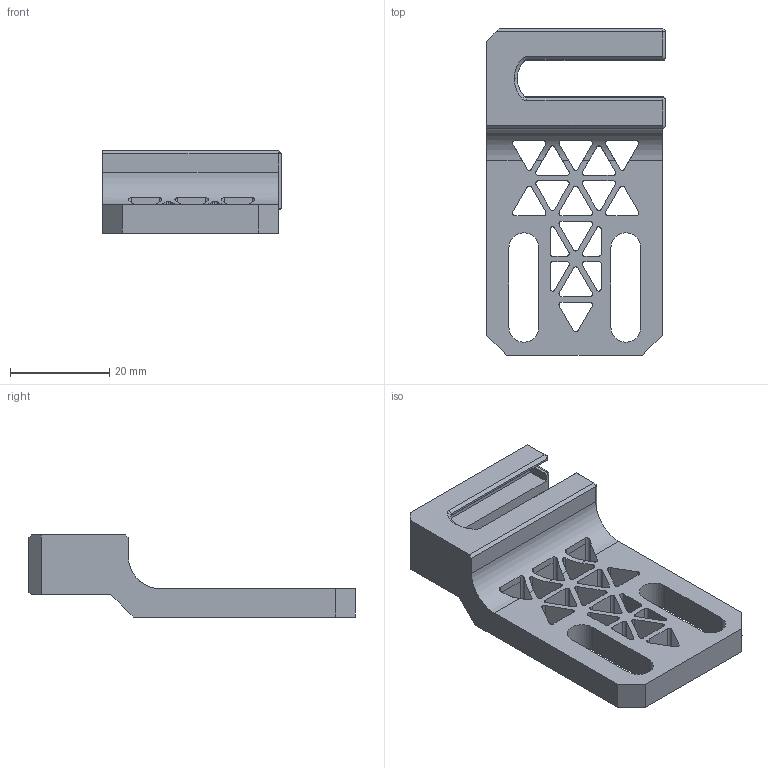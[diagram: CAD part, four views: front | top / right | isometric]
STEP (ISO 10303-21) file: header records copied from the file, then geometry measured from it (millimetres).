
FILE_DESCRIPTION(/* description */ (''),/* implementation_level */ '2;1');
FILE_NAME(/* name */ 'C:/Users/Florent/Desktop/Flathead V2.1/Euclid Probe Dock v2.step',/* time_stamp */ '2022-03-20T23:52:32+01:00',/* author */ (''),/* organization */ (''),/* preprocessor_version */ 'ST-DEVELOPER v18.1',/* originating_system */ 'Autodesk Translation Framework v10.13.0.1454',/* authorisation */ '');
FILE_SCHEMA (('AUTOMOTIVE_DESIGN { 1 0 10303 214 3 1 1 }'));
Length unit declared in the file: millimetre
Products named in the file (1): Euclid Probe Dock
Bounding box: 35.96 x 65.59 x 16.5 mm (x, y, z)
Volume: 10843.6 mm3; surface area: 8599.1 mm2
Topology: 1 solids, 1 shells, 323 faces, 937 edges, 613 vertices
Faces by surface type: plane 147, cylinder 95, bspline 63, cone 16, sphere 2
Entity records: 11388 total; most frequent: CARTESIAN_POINT 3074, ORIENTED_EDGE 1866, DIRECTION 1521, EDGE_CURVE 933, VERTEX_POINT 613, LINE 579, VECTOR 579, AXIS2_PLACEMENT_3D 471
